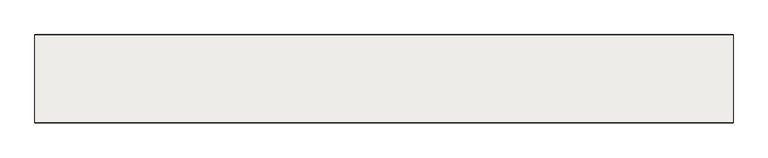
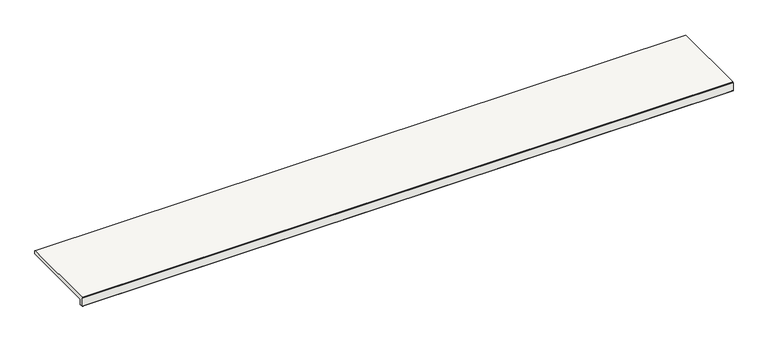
"""IFC4 building model written with IfcOpenShell, lengths in millimetres: slab geometry, ROSA GRES_L62 : Pieza L62_Mistery_Grey_Anti-Slip."""

from ifc_helpers import new_model, si_unit, point, frame, frame_2d, origin, place, context, project, spatial, polyline, circle_curve, trimmed, segment, composite_curve, outline, extrude, source, transform, mapped, element, save


def slab_aa3e833d(model_context):
    return source(origin(), model_context, "Body", "SweptSolid", [
        extrude(outline(composite_curve([segment(polyline([(12.1001991, -37.0), (9.4054777, -37.0)]), True, "CONTINUOUS"), segment(trimmed(circle_curve(frame_2d((7.4142134, -37.0)), 1.9912643), [point((9.4054777, -37.0))], [point((5.422949, -37.0))], True, "CARTESIAN"), True, "CONTINUOUS"), segment(polyline([(5.422949, -37.0), (2.5, -37.0)]), True, "CONTINUOUS"), segment(trimmed(circle_curve(frame_2d((2.5, -34.5)), 2.5), [point((2.5, -37.0))], [point((0.0, -34.5))], False, "CARTESIAN"), True, "CONTINUOUS"), segment(polyline([(0.0, -34.5), (0.0, -2.5), (2.5, 0.0), (315.5, 0.0), (317.0, -2.5), (317.0, -12.4648352)]), True, "CONTINUOUS"), segment(trimmed(circle_curve(frame_2d((315.5234432, -12.4648352)), 1.4765568), [point((317.0, -12.4648352))], [point((315.5234432, -13.9413919))], False, "CARTESIAN"), True, "CONTINUOUS"), segment(polyline([(315.5234432, -13.9413919), (16.6422322, -13.9413919)]), True, "CONTINUOUS"), segment(trimmed(circle_curve(frame_2d((16.6422322, -16.5836242)), 2.6422322), [point((16.6422322, -13.9413919))], [point((14.0, -16.5836242))], True, "CARTESIAN"), True, "CONTINUOUS"), segment(polyline([(14.0, -16.5836242), (14.0, -35.1001991)]), True, "CONTINUOUS"), segment(trimmed(circle_curve(frame_2d((12.1001991, -35.1001991)), 1.8998009), [point((14.0, -35.1001991))], [point((12.1001991, -37.0))], False, "CARTESIAN"), True, "CONTINUOUS")], self_intersect=False)), frame((0.0, 0.0, 0.0), z_axis=(1.0, 0.0, 0.0), x_axis=(0.0, 1.0, 0.0)), (0.0, 0.0, 1.0), 2503.7014876),
    ])


if __name__ == "__main__":
    model = new_model("IFC4")
    model_context = context("Model", 3, world=origin())
    ifc_project = project(units=[si_unit("LENGTHUNIT", "METRE", prefix="MILLI")], contexts=[model_context])
    site = spatial("IfcSite", under=ifc_project)
    building = spatial("IfcBuilding", under=site)
    placement = place(None, origin())
    slab_shape = slab_aa3e833d(model_context)
    element("IfcSlab", 1, ObjectType="ROSA GRES_L62 : Pieza L62_Mistery_Grey_Anti-Slip", at=placement, inside=building, context=model_context, shape_type="MappedRepresentation", body=[
        mapped(slab_shape, transform((0.0, 0.0, 0.0), x_axis=(1.0, 0.0, 0.0), y_axis=(0.0, 1.0, 0.0), z_axis=(0.0, 0.0, 1.0))),
    ])
    save(model, "model.ifc")
